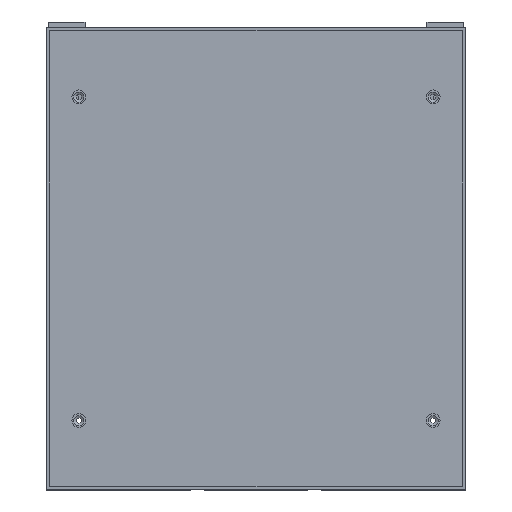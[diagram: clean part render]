
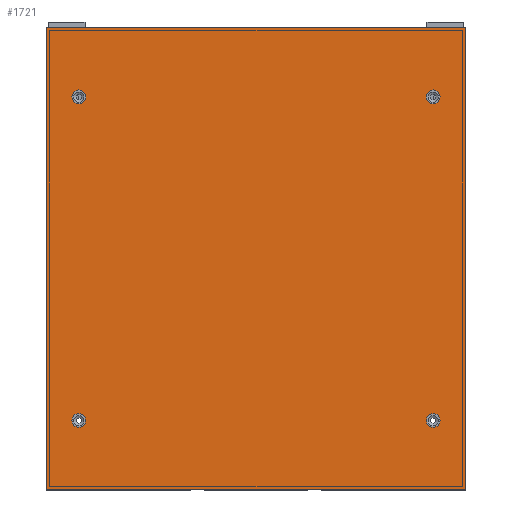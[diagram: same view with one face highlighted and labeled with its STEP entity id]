
A CAD part, top view. The second image highlights one B-rep face of the part: STEP entity #1721.
In plain terms, the highlighted planar face has unit normal (0, 0, 1).
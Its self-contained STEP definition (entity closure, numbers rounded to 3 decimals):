
#1721=ADVANCED_FACE('',(#2962,#2963,#2964,#2965,#2966),#2537,.F.);
#2537=PLANE('',#17333);
#2962=FACE_BOUND('',#3840,.T.);
#2963=FACE_BOUND('',#3841,.T.);
#2964=FACE_BOUND('',#3842,.T.);
#2965=FACE_BOUND('',#3843,.T.);
#2966=FACE_BOUND('',#3844,.T.);
#3840=EDGE_LOOP('',(#7067));
#3841=EDGE_LOOP('',(#7068));
#3842=EDGE_LOOP('',(#7069));
#3843=EDGE_LOOP('',(#7070));
#3844=EDGE_LOOP('',(#7071,#7072,#7073,#7074));
#5188=CIRCLE('',#17329,2.25);
#5189=CIRCLE('',#17330,2.25);
#5190=CIRCLE('',#17331,2.25);
#5191=CIRCLE('',#17332,2.25);
#7067=ORIENTED_EDGE('',*,*,#12974,.F.);
#7068=ORIENTED_EDGE('',*,*,#12975,.F.);
#7069=ORIENTED_EDGE('',*,*,#12976,.F.);
#7070=ORIENTED_EDGE('',*,*,#12977,.F.);
#7071=ORIENTED_EDGE('',*,*,#12661,.F.);
#7072=ORIENTED_EDGE('',*,*,#12978,.F.);
#7073=ORIENTED_EDGE('',*,*,#12568,.F.);
#7074=ORIENTED_EDGE('',*,*,#12979,.F.);
#10850=VERTEX_POINT('',#25507);
#10851=VERTEX_POINT('',#25509);
#10914=VERTEX_POINT('',#25683);
#10915=VERTEX_POINT('',#25685);
#11113=VERTEX_POINT('',#26319);
#11114=VERTEX_POINT('',#26321);
#11115=VERTEX_POINT('',#26323);
#11116=VERTEX_POINT('',#26325);
#12568=EDGE_CURVE('',#10850,#10851,#14633,.T.);
#12661=EDGE_CURVE('',#10914,#10915,#14708,.T.);
#12974=EDGE_CURVE('',#11113,#11113,#5188,.T.);
#12975=EDGE_CURVE('',#11114,#11114,#5189,.T.);
#12976=EDGE_CURVE('',#11115,#11115,#5190,.T.);
#12977=EDGE_CURVE('',#11116,#11116,#5191,.T.);
#12978=EDGE_CURVE('',#10851,#10914,#14898,.T.);
#12979=EDGE_CURVE('',#10915,#10850,#14899,.T.);
#14633=LINE('',#25508,#15829);
#14708=LINE('',#25684,#15904);
#14898=LINE('',#26326,#16094);
#14899=LINE('',#26327,#16095);
#15829=VECTOR('',#19388,1.);
#15904=VECTOR('',#19537,1.);
#16094=VECTOR('',#20227,1.);
#16095=VECTOR('',#20228,1.);
#17329=AXIS2_PLACEMENT_3D('',#26318,#20219,#20220);
#17330=AXIS2_PLACEMENT_3D('',#26320,#20221,#20222);
#17331=AXIS2_PLACEMENT_3D('',#26322,#20223,#20224);
#17332=AXIS2_PLACEMENT_3D('',#26324,#20225,#20226);
#17333=AXIS2_PLACEMENT_3D('',#26328,#20229,#20230);
#19388=DIRECTION('',(0.,1.,0.));
#19537=DIRECTION('',(0.,-1.,0.));
#20219=DIRECTION('',(0.,0.,1.));
#20220=DIRECTION('',(-1.,0.,0.));
#20221=DIRECTION('',(0.,0.,1.));
#20222=DIRECTION('',(1.,0.,0.));
#20223=DIRECTION('',(0.,0.,1.));
#20224=DIRECTION('',(-1.,0.,0.));
#20225=DIRECTION('',(0.,0.,1.));
#20226=DIRECTION('',(1.,0.,0.));
#20227=DIRECTION('',(1.,0.,0.));
#20228=DIRECTION('',(-1.,0.,0.));
#20229=DIRECTION('',(0.,0.,-1.));
#20230=DIRECTION('',(1.,0.,0.));
#25507=CARTESIAN_POINT('',(-68.,-78.,193.));
#25508=CARTESIAN_POINT('',(-68.,72.,193.));
#25509=CARTESIAN_POINT('',(-68.,72.,193.));
#25683=CARTESIAN_POINT('',(68.,72.,193.));
#25684=CARTESIAN_POINT('',(68.,72.,193.));
#25685=CARTESIAN_POINT('',(68.,-78.,193.));
#26318=CARTESIAN_POINT('',(-57.5,-55.5,193.));
#26319=CARTESIAN_POINT('',(-59.75,-55.5,193.));
#26320=CARTESIAN_POINT('',(57.5,-55.5,193.));
#26321=CARTESIAN_POINT('',(59.75,-55.5,193.));
#26322=CARTESIAN_POINT('',(57.5,49.5,193.));
#26323=CARTESIAN_POINT('',(55.25,49.5,193.));
#26324=CARTESIAN_POINT('',(-57.5,49.5,193.));
#26325=CARTESIAN_POINT('',(-55.25,49.5,193.));
#26326=CARTESIAN_POINT('',(68.,72.,193.));
#26327=CARTESIAN_POINT('',(68.,-78.,193.));
#26328=CARTESIAN_POINT('',(0.,-3.,193.));
